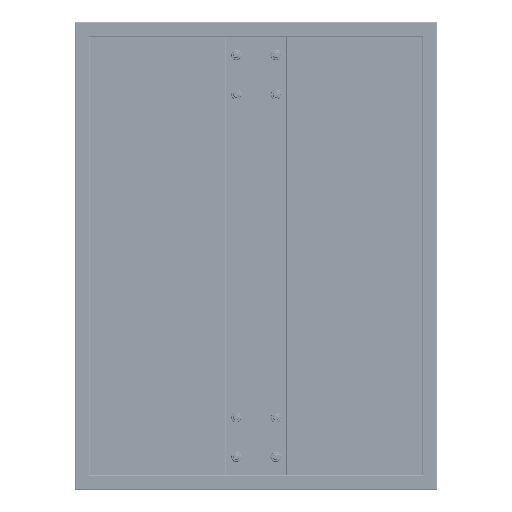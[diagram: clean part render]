
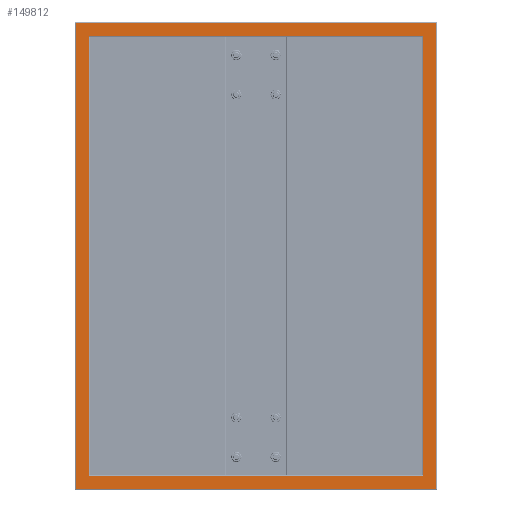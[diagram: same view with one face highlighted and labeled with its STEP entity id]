
A CAD part, front view. The second image highlights one B-rep face of the part: STEP entity #149812.
In plain terms, the highlighted planar face has unit normal (0, -1, 0).
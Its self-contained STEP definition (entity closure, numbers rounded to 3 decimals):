
#1589 = DIRECTION ( 'NONE',  ( -1., 0., 0. ) ) ;
#5760 = VECTOR ( 'NONE', #166738, 1000. ) ;
#8095 = DIRECTION ( 'NONE',  ( 0., 0., 1. ) ) ;
#9182 = CARTESIAN_POINT ( 'NONE',  ( 221., -41.5, -291. ) ) ;
#12251 = EDGE_CURVE ( 'NONE', #169082, #34765, #94177, .T. ) ;
#13107 = CARTESIAN_POINT ( 'NONE',  ( 239., -41.5, 309. ) ) ;
#21506 = VERTEX_POINT ( 'NONE', #168168 ) ;
#24241 = DIRECTION ( 'NONE',  ( 0., 0., 1. ) ) ;
#26812 = CARTESIAN_POINT ( 'NONE',  ( 239., -41.5, -309. ) ) ;
#28379 = DIRECTION ( 'NONE',  ( 0., 0., 1. ) ) ;
#31394 = EDGE_LOOP ( 'NONE', ( #105620, #86138, #134222, #46559 ) ) ;
#34765 = VERTEX_POINT ( 'NONE', #165749 ) ;
#38841 = PLANE ( 'NONE',  #48858 ) ;
#38856 = EDGE_CURVE ( 'NONE', #93836, #21506, #162313, .T. ) ;
#46559 = ORIENTED_EDGE ( 'NONE', *, *, #38856, .T. ) ;
#48858 = AXIS2_PLACEMENT_3D ( 'NONE', #76533, #119392, #117679 ) ;
#49010 = VECTOR ( 'NONE', #155428, 1000. ) ;
#57214 = LINE ( 'NONE', #149213, #116017 ) ;
#59072 = EDGE_CURVE ( 'NONE', #93836, #98323, #57214, .T. ) ;
#59109 = VECTOR ( 'NONE', #24241, 1000. ) ;
#62775 = CARTESIAN_POINT ( 'NONE',  ( 239., -41.5, -309. ) ) ;
#64488 = ORIENTED_EDGE ( 'NONE', *, *, #128325, .T. ) ;
#65796 = CARTESIAN_POINT ( 'NONE',  ( -239., -41.5, -309. ) ) ;
#66896 = DIRECTION ( 'NONE',  ( 1., 0., 0. ) ) ;
#68439 = ORIENTED_EDGE ( 'NONE', *, *, #12251, .F. ) ;
#68894 = EDGE_CURVE ( 'NONE', #159245, #136107, #143333, .T. ) ;
#69416 = CARTESIAN_POINT ( 'NONE',  ( -239., -41.5, -309. ) ) ;
#69626 = EDGE_CURVE ( 'NONE', #98323, #97379, #153459, .T. ) ;
#76533 = CARTESIAN_POINT ( 'NONE',  ( 240., -41.5, 291. ) ) ;
#86138 = ORIENTED_EDGE ( 'NONE', *, *, #69626, .F. ) ;
#87995 = LINE ( 'NONE', #112550, #49010 ) ;
#89722 = CARTESIAN_POINT ( 'NONE',  ( -221., -41.5, -291. ) ) ;
#93836 = VERTEX_POINT ( 'NONE', #89722 ) ;
#94177 = LINE ( 'NONE', #147632, #5760 ) ;
#94888 = CARTESIAN_POINT ( 'NONE',  ( -221., -41.5, -291. ) ) ;
#95708 = LINE ( 'NONE', #69416, #137080 ) ;
#95736 = VECTOR ( 'NONE', #8095, 1000. ) ;
#97379 = VERTEX_POINT ( 'NONE', #155494 ) ;
#98323 = VERTEX_POINT ( 'NONE', #9182 ) ;
#104477 = EDGE_CURVE ( 'NONE', #97379, #21506, #158376, .T. ) ;
#105620 = ORIENTED_EDGE ( 'NONE', *, *, #104477, .F. ) ;
#112550 = CARTESIAN_POINT ( 'NONE',  ( 239., -41.5, 309. ) ) ;
#114650 = ORIENTED_EDGE ( 'NONE', *, *, #168811, .T. ) ;
#116017 = VECTOR ( 'NONE', #66896, 1000. ) ;
#117679 = DIRECTION ( 'NONE',  ( 0., 0., 1. ) ) ;
#119392 = DIRECTION ( 'NONE',  ( 0., -1., 0. ) ) ;
#125927 = EDGE_LOOP ( 'NONE', ( #64488, #68439, #114650, #129432 ) ) ;
#128325 = EDGE_CURVE ( 'NONE', #136107, #34765, #87995, .T. ) ;
#129432 = ORIENTED_EDGE ( 'NONE', *, *, #68894, .T. ) ;
#132511 = FACE_BOUND ( 'NONE', #31394, .T. ) ;
#132928 = CARTESIAN_POINT ( 'NONE',  ( 221., -41.5, 291. ) ) ;
#134222 = ORIENTED_EDGE ( 'NONE', *, *, #59072, .F. ) ;
#136107 = VERTEX_POINT ( 'NONE', #13107 ) ;
#137080 = VECTOR ( 'NONE', #150850, 1000. ) ;
#139154 = VECTOR ( 'NONE', #1589, 1000. ) ;
#142920 = CARTESIAN_POINT ( 'NONE',  ( 221., -41.5, -291. ) ) ;
#143333 = LINE ( 'NONE', #62775, #59109 ) ;
#147632 = CARTESIAN_POINT ( 'NONE',  ( -239., -41.5, -309. ) ) ;
#149213 = CARTESIAN_POINT ( 'NONE',  ( -221., -41.5, -291. ) ) ;
#149812 = ADVANCED_FACE ( 'NONE', ( #132511, #158819 ), #38841, .T. ) ;
#150850 = DIRECTION ( 'NONE',  ( 1., 0., 0. ) ) ;
#153459 = LINE ( 'NONE', #142920, #95736 ) ;
#155428 = DIRECTION ( 'NONE',  ( -1., 0., 0. ) ) ;
#155494 = CARTESIAN_POINT ( 'NONE',  ( 221., -41.5, 291. ) ) ;
#158376 = LINE ( 'NONE', #132928, #139154 ) ;
#158819 = FACE_OUTER_BOUND ( 'NONE', #125927, .T. ) ;
#159245 = VERTEX_POINT ( 'NONE', #26812 ) ;
#162313 = LINE ( 'NONE', #94888, #167238 ) ;
#165749 = CARTESIAN_POINT ( 'NONE',  ( -239., -41.5, 309. ) ) ;
#166738 = DIRECTION ( 'NONE',  ( 0., 0., 1. ) ) ;
#167238 = VECTOR ( 'NONE', #28379, 1000. ) ;
#168168 = CARTESIAN_POINT ( 'NONE',  ( -221., -41.5, 291. ) ) ;
#168811 = EDGE_CURVE ( 'NONE', #169082, #159245, #95708, .T. ) ;
#169082 = VERTEX_POINT ( 'NONE', #65796 ) ;
